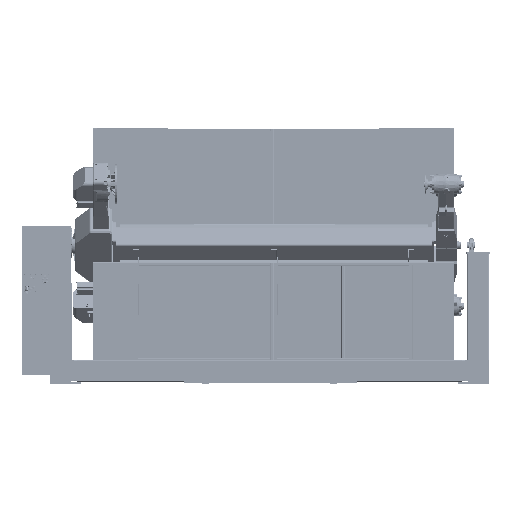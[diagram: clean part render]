
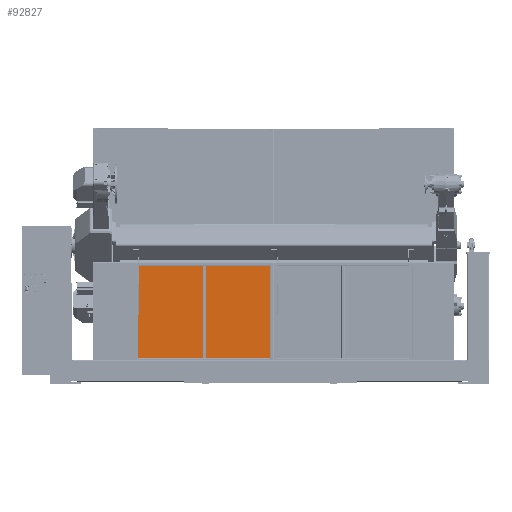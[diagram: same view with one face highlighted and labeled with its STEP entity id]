
A CAD part, left-side view. The second image highlights one B-rep face of the part: STEP entity #92827.
In plain terms, the highlighted planar face has unit normal (-1, 0, 0.002).
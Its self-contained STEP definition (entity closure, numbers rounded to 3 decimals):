
#4672=LINE('',#144314,#11588);
#6004=LINE('',#148942,#12920);
#6006=LINE('',#148946,#12922);
#6014=LINE('',#149007,#12930);
#6020=LINE('',#149017,#12936);
#6027=LINE('',#149031,#12943);
#6028=LINE('',#149032,#12944);
#6029=LINE('',#149034,#12945);
#6030=LINE('',#149036,#12946);
#6031=LINE('',#149037,#12947);
#6032=LINE('',#149038,#12948);
#6033=LINE('',#149039,#12949);
#6034=LINE('',#149042,#12950);
#6035=LINE('',#149044,#12951);
#6036=LINE('',#149046,#12952);
#6037=LINE('',#149047,#12953);
#11588=VECTOR('',#109710,1000.);
#12920=VECTOR('',#112972,1000.);
#12922=VECTOR('',#112974,1000.);
#12930=VECTOR('',#112992,1000.);
#12936=VECTOR('',#112998,1000.);
#12943=VECTOR('',#113011,1000.);
#12944=VECTOR('',#113012,1000.);
#12945=VECTOR('',#113013,1000.);
#12946=VECTOR('',#113014,1000.);
#12947=VECTOR('',#113015,1000.);
#12948=VECTOR('',#113016,1000.);
#12949=VECTOR('',#113017,1000.);
#12950=VECTOR('',#113018,1000.);
#12951=VECTOR('',#113019,1000.);
#12952=VECTOR('',#113020,1000.);
#12953=VECTOR('',#113021,1000.);
#19184=FACE_BOUND('',#26714,.T.);
#21054=FACE_OUTER_BOUND('',#26713,.T.);
#26713=EDGE_LOOP('',(#63718,#63719,#63720,#63721,#63722,#63723,#63724,#63725,
#63726,#63727,#63728,#63729));
#26714=EDGE_LOOP('',(#63730,#63731,#63732,#63733));
#36551=VERTEX_POINT('',#144311);
#36552=VERTEX_POINT('',#144313);
#37596=VERTEX_POINT('',#148939);
#37597=VERTEX_POINT('',#148941);
#37598=VERTEX_POINT('',#148943);
#37599=VERTEX_POINT('',#148945);
#37609=VERTEX_POINT('',#149003);
#37610=VERTEX_POINT('',#149004);
#37611=VERTEX_POINT('',#149006);
#37615=VERTEX_POINT('',#149015);
#37620=VERTEX_POINT('',#149033);
#37621=VERTEX_POINT('',#149035);
#37622=VERTEX_POINT('',#149040);
#37623=VERTEX_POINT('',#149041);
#37624=VERTEX_POINT('',#149043);
#37625=VERTEX_POINT('',#149045);
#45439=EDGE_CURVE('',#36551,#36552,#4672,.T.);
#47141=EDGE_CURVE('',#37596,#37597,#6004,.T.);
#47143=EDGE_CURVE('',#37598,#37599,#6006,.T.);
#47155=EDGE_CURVE('',#37610,#37611,#6014,.T.);
#47161=EDGE_CURVE('',#37615,#37609,#6020,.T.);
#47168=EDGE_CURVE('',#36551,#37597,#6027,.T.);
#47169=EDGE_CURVE('',#37596,#37611,#6028,.T.);
#47170=EDGE_CURVE('',#37620,#37610,#6029,.T.);
#47171=EDGE_CURVE('',#37620,#37621,#6030,.T.);
#47172=EDGE_CURVE('',#37621,#37609,#6031,.T.);
#47173=EDGE_CURVE('',#37615,#37599,#6032,.T.);
#47174=EDGE_CURVE('',#36552,#37598,#6033,.T.);
#47175=EDGE_CURVE('',#37622,#37623,#6034,.T.);
#47176=EDGE_CURVE('',#37623,#37624,#6035,.T.);
#47177=EDGE_CURVE('',#37625,#37624,#6036,.T.);
#47178=EDGE_CURVE('',#37625,#37622,#6037,.T.);
#63718=ORIENTED_EDGE('',*,*,#45439,.F.);
#63719=ORIENTED_EDGE('',*,*,#47168,.T.);
#63720=ORIENTED_EDGE('',*,*,#47141,.F.);
#63721=ORIENTED_EDGE('',*,*,#47169,.T.);
#63722=ORIENTED_EDGE('',*,*,#47155,.F.);
#63723=ORIENTED_EDGE('',*,*,#47170,.F.);
#63724=ORIENTED_EDGE('',*,*,#47171,.T.);
#63725=ORIENTED_EDGE('',*,*,#47172,.T.);
#63726=ORIENTED_EDGE('',*,*,#47161,.F.);
#63727=ORIENTED_EDGE('',*,*,#47173,.T.);
#63728=ORIENTED_EDGE('',*,*,#47143,.F.);
#63729=ORIENTED_EDGE('',*,*,#47174,.F.);
#63730=ORIENTED_EDGE('',*,*,#47175,.T.);
#63731=ORIENTED_EDGE('',*,*,#47176,.T.);
#63732=ORIENTED_EDGE('',*,*,#47177,.F.);
#63733=ORIENTED_EDGE('',*,*,#47178,.T.);
#84178=PLANE('',#99245);
#92827=ADVANCED_FACE('',(#21054,#19184),#84178,.T.);
#99245=AXIS2_PLACEMENT_3D('',#149030,#113009,#113010);
#109710=DIRECTION('',(0.,1.,0.));
#112972=DIRECTION('',(0.,1.,0.));
#112974=DIRECTION('',(0.,1.,0.));
#112992=DIRECTION('',(0.,-1.,0.));
#112998=DIRECTION('',(0.,-1.,0.));
#113009=DIRECTION('center_axis',(-1.,0.,
0.002));
#113010=DIRECTION('ref_axis',(0.,1.,0.));
#113011=DIRECTION('',(-0.002,0.,-1.));
#113012=DIRECTION('',(0.002,0.,1.));
#113013=DIRECTION('',(0.002,0.,1.));
#113014=DIRECTION('',(0.,1.,0.));
#113015=DIRECTION('',(0.002,0.,1.));
#113016=DIRECTION('',(-0.002,0.,-1.));
#113017=DIRECTION('',(-0.002,0.,-1.));
#113018=DIRECTION('',(-0.002,0.,-1.));
#113019=DIRECTION('',(0.,1.,0.));
#113020=DIRECTION('',(-0.002,0.,-1.));
#113021=DIRECTION('',(0.,-1.,0.));
#144311=CARTESIAN_POINT('',(538.108,-1742.5,-1978.321));
#144313=CARTESIAN_POINT('',(538.108,-247.5,-1978.321));
#144314=CARTESIAN_POINT('',(538.108,-1799.649,-1978.321));
#148939=CARTESIAN_POINT('',(538.1,-1747.7,-1983.121));
#148941=CARTESIAN_POINT('',(538.1,-1742.5,-1983.121));
#148942=CARTESIAN_POINT('',(538.1,-1772.5,-1983.121));
#148943=CARTESIAN_POINT('',(538.1,-247.5,-1983.121));
#148945=CARTESIAN_POINT('',(538.1,-242.3,-1983.121));
#148946=CARTESIAN_POINT('',(538.1,-1772.5,-1983.121));
#149003=CARTESIAN_POINT('',(539.959,-247.5,-918.122));
#149004=CARTESIAN_POINT('',(539.959,-1742.5,-918.122));
#149006=CARTESIAN_POINT('',(539.959,-1747.7,-918.122));
#149007=CARTESIAN_POINT('',(539.959,-1772.5,-918.122));
#149015=CARTESIAN_POINT('',(539.959,-242.3,-918.122));
#149017=CARTESIAN_POINT('',(539.959,-1772.5,-918.122));
#149030=CARTESIAN_POINT('Origin',(539.959,-1772.5,-918.122));
#149031=CARTESIAN_POINT('',(538.108,-1742.5,-1978.321));
#149032=CARTESIAN_POINT('',(538.082,-1747.7,-1993.121));
#149033=CARTESIAN_POINT('',(539.95,-1742.5,-922.922));
#149034=CARTESIAN_POINT('',(528.392,-1742.5,-7545.588));
#149035=CARTESIAN_POINT('',(539.95,-247.5,-922.922));
#149036=CARTESIAN_POINT('',(539.95,-1762.5,-922.922));
#149037=CARTESIAN_POINT('',(528.601,-247.5,-7425.726));
#149038=CARTESIAN_POINT('',(539.976,-242.3,-908.122));
#149039=CARTESIAN_POINT('',(538.108,-247.5,-1978.321));
#149040=CARTESIAN_POINT('',(539.941,-1009.8,-928.122));
#149041=CARTESIAN_POINT('',(538.117,-1009.8,-1973.121));
#149042=CARTESIAN_POINT('',(539.976,-1009.8,-908.122));
#149043=CARTESIAN_POINT('',(538.117,-980.2,-1973.121));
#149044=CARTESIAN_POINT('',(538.117,-1009.8,-1973.121));
#149045=CARTESIAN_POINT('',(539.941,-980.2,-928.122));
#149046=CARTESIAN_POINT('',(539.976,-980.2,-908.122));
#149047=CARTESIAN_POINT('',(539.941,-1009.8,-928.122));
